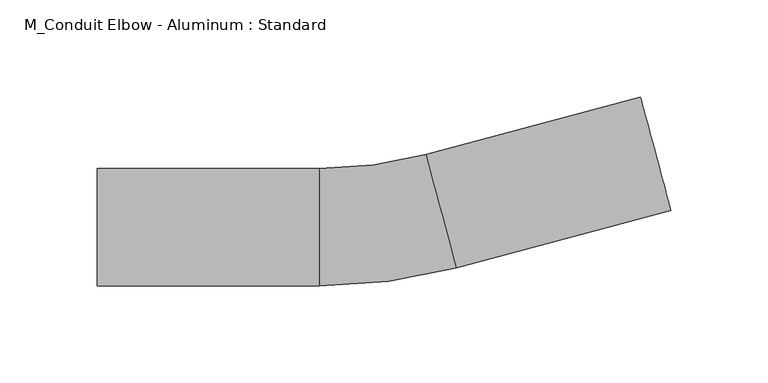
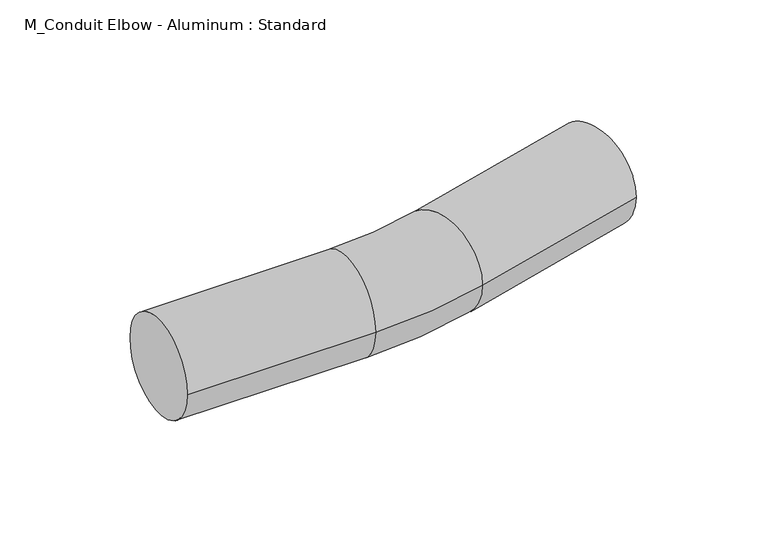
"""IFC4 building model written with IfcOpenShell, lengths in millimetres: cable carrier fitting geometry, M_Conduit Elbow - Aluminum : Standard."""

from ifc_helpers import new_model, si_unit, point, frame, origin, place, context, project, spatial, circle_curve, ellipse_curve, trimmed, source, transform, mapped, element, save
from ifc_brep_helpers import plane_surface, cylinder_surface, revolved_surface, advanced_brep


def m_conduit_elbow_aluminum_standard_1407c279(model_context):
    return source(origin(), model_context, "Body", "AdvancedBrep", [
        advanced_brep(
        [(-146.0677477, -30.1625, 0.0), (-146.0677477, 30.1625, 0.0), (-31.7677477, -30.1625, 0.0), (-31.7677477, 30.1625, 0.0), (22.8786585, 37.3568359, 0.0), (38.4919174, -20.9126396, 0.0), (148.8972393, 8.6703772, 0.0), (133.2839804, 66.9398527, 0.0)],
        [
            (0, 1, circle_curve(frame((-146.0677477, 0.0, 0.0), z_axis=(-1.0, 0.0, 0.0), x_axis=(0.0, 1.0, 0.0)), 30.1625)),
            (1, 0, circle_curve(frame((-146.0677477, 0.0, 0.0), z_axis=(-1.0, 0.0, 0.0), x_axis=(0.0, 1.0, 0.0)), 30.1625)),
            (0, 2),
            (2, 3, circle_curve(frame((-31.7677477, 0.0, 0.0), z_axis=(-1.0, 0.0, 0.0), x_axis=(0.0, 1.0, 0.0)), 30.1625)),
            (3, 1),
            (3, 2, circle_curve(frame((-31.7677477, 0.0, 0.0), z_axis=(-1.0, 0.0, 0.0), x_axis=(0.0, 1.0, 0.0)), 30.1625)),
            (4, 3, circle_curve(frame((-31.7677477, 241.3, 0.0), z_axis=(0.0, 0.0, -1.0), x_axis=(0.0, -1.0, 0.0)), 211.1375)),
            (2, 5, circle_curve(frame((-31.7677477, 241.3, 0.0), z_axis=(0.0, 0.0, 1.0), x_axis=(0.0, -1.0, 0.0)), 271.4625)),
            (5, 4, circle_curve(frame((30.6852879, 8.2220981, 0.0), z_axis=(-0.965925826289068, -0.258819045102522, 0.0), x_axis=(-0.258819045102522, 0.965925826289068, 0.0)), 30.1625)),
            (4, 5, circle_curve(frame((30.6852879, 8.2220981, 0.0), z_axis=(-0.965925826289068, -0.25881904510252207, 0.0), x_axis=(-0.25881904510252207, 0.965925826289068, 0.0)), 30.1625)),
            (6, 7, circle_curve(frame((141.0906099, 37.805115, 0.0), z_axis=(0.965925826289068, 0.2588190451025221, 0.0), x_axis=(-0.2588190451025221, 0.965925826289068, 0.0)), 30.1625)),
            (7, 6, circle_curve(frame((141.0906099, 37.805115, 0.0), z_axis=(0.965925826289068, 0.2588190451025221, 0.0), x_axis=(-0.2588190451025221, 0.965925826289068, 0.0)), 30.1625)),
            (5, 6),
            (7, 4),
        ],
        [
            plane_surface(frame((-146.0677477, 0.0, 0.0), z_axis=(-1.0, 0.0, 0.0), x_axis=(0.0, 0.0, 1.0))),
            cylinder_surface(frame((-146.0677477, 0.0, 0.0), z_axis=(-1.0, 0.0, 0.0), x_axis=(0.0, 1.0, 0.0)), 30.1625),
            revolved_surface(trimmed(ellipse_curve(frame((-31.7677477, 0.0, 0.0), z_axis=(-1.0, 0.0, 0.0), x_axis=(0.0, 1.0, 0.0)), 30.1625, 30.1625), [point((-31.7677477, -30.1625, 0.0))], [point((-31.7677477, 30.1625, 0.0))], True, "CARTESIAN"), (-31.7677477, 241.3, 0.0), (0.0, 0.0, 1.0)),
            revolved_surface(trimmed(ellipse_curve(frame((-31.7677477, 0.0, 0.0), z_axis=(-1.0, 0.0, 0.0), x_axis=(0.0, 1.0, 0.0)), 30.1625, 30.1625), [point((-31.7677477, 30.1625, 0.0))], [point((-31.7677477, -30.1625, 0.0))], True, "CARTESIAN"), (-31.7677477, 241.3, 0.0), (0.0, 0.0, 1.0)),
            plane_surface(frame((141.0906099, 37.805115, 0.0), z_axis=(0.965925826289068, 0.25881904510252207, 0.0), x_axis=(0.0, 0.0, 1.0))),
            cylinder_surface(frame((30.6852879, 8.2220981, 0.0), z_axis=(-0.965925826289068, -0.2588190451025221, 0.0), x_axis=(-0.2588190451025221, 0.965925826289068, 0.0)), 30.1625),
        ],
        [
            (0, [[1, 2]]),
            (1, [[-1, 3, 4, 5]]),
            (1, [[-2, -5, 6, -3]]),
            (2, [[7, -4, 8, 9]]),
            (3, [[-8, -6, -7, 10]]),
            (4, [[11, 12]]),
            (5, [[-9, 13, -12, 14]]),
            (5, [[-10, -14, -11, -13]]),
        ],
    ),
    ])


if __name__ == "__main__":
    model = new_model("IFC4")
    model_context = context("Model", 3, world=origin())
    ifc_project = project(units=[si_unit("LENGTHUNIT", "METRE", prefix="MILLI")], contexts=[model_context])
    site = spatial("IfcSite", under=ifc_project)
    building = spatial("IfcBuilding", under=site)
    placement = place(None, origin())
    m_conduit_elbow_aluminum_standard_shape = m_conduit_elbow_aluminum_standard_1407c279(model_context)
    element("IfcCableCarrierFitting", 1, ObjectType="M_Conduit Elbow - Aluminum : Standard", at=placement, inside=building, context=model_context, shape_type="MappedRepresentation", body=[
        mapped(m_conduit_elbow_aluminum_standard_shape, transform((0.0, 0.0, 0.0), x_axis=(1.0, 0.0, 0.0), y_axis=(0.0, 1.0, 0.0), z_axis=(0.0, 0.0, 1.0))),
    ])
    save(model, "model.ifc")
